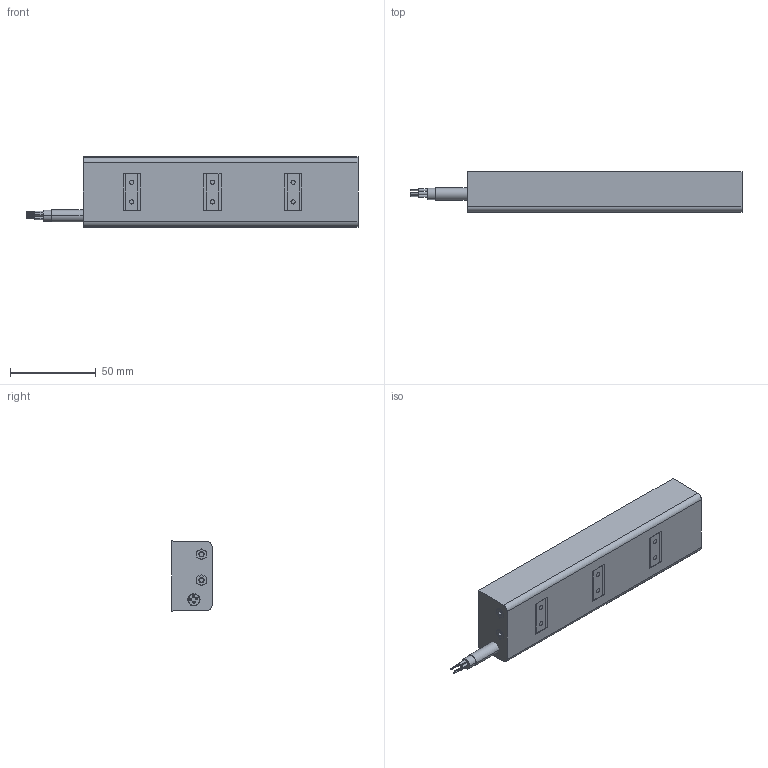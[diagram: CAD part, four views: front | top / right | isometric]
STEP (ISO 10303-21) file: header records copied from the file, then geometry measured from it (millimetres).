
FILE_DESCRIPTION (( 'STEP AP203' ), '1' );
FILE_NAME ('IC40-6 CU 3D..STEP', '2021-11-05T08:43:58', ( '' ), ( '' ), 'SwSTEP 2.0', 'SolidWorks 2021', '' );
FILE_SCHEMA (( 'CONFIG_CONTROL_DESIGN' ));
Length unit declared in the file: millimetre
Products named in the file (6): IC40 cableclamp; IC40 slotstrip; M3 nut hall module for 3D CU; resin-6; IC40-6 CU 3D.; power cable
Assembly tree (8 placements, depth 2):
  IC40-6 CU 3D.
    IC40 slotstrip  x3
    IC40 cableclamp
    resin-6
    power cable
    M3 nut hall module for 3D CU  x2
Bounding box: 193.46 x 23.35 x 40.82 mm (x, y, z)
Volume: 153395.5 mm3; surface area: 25509.5 mm2
Topology: 8 solids, 8 shells, 238 faces, 562 edges, 342 vertices
Faces by surface type: plane 101, cylinder 99, torus 26, sphere 12
Entity records: 5282 total; most frequent: CARTESIAN_POINT 911, DIRECTION 827, ORIENTED_EDGE 716, EDGE_CURVE 358, AXIS2_PLACEMENT_3D 315, VERTEX_POINT 226, VECTOR 197, LINE 197
